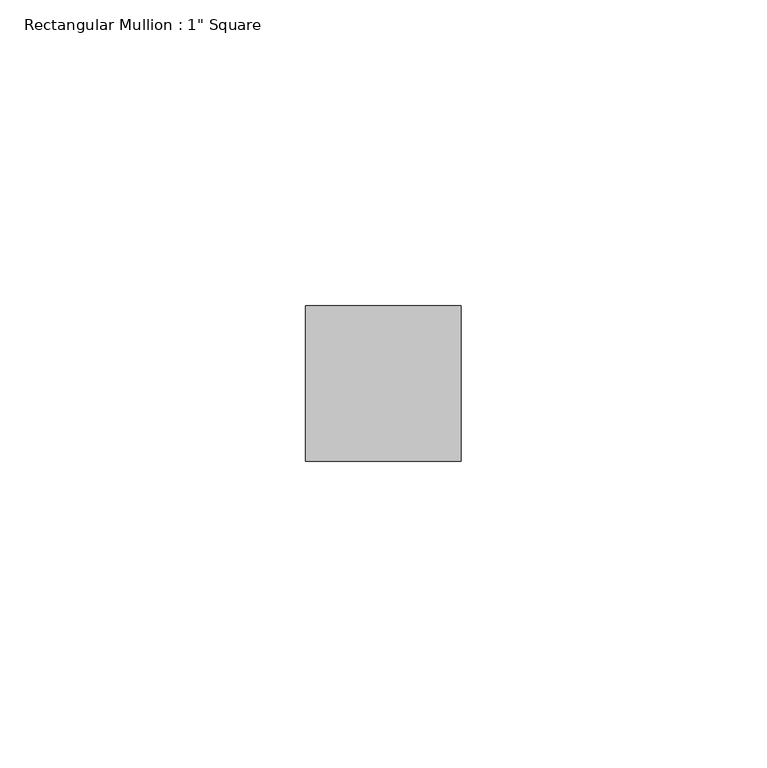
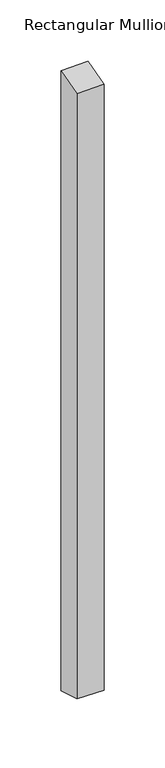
"""IFC4 building model written with IfcOpenShell, lengths in millimetres: member geometry."""

import ifcopenshell
import ifcopenshell.guid

model = None  # the IFC model being written
_history = None  # IfcOwnerHistory: only IFC2X3 demands one
_inside = {}  # id of a spatial element -> (the spatial element, [elements in it])
_under = {}  # id of a project, library or spatial element -> (it, [spatial elements below it])
_declared = {}  # id of a project -> (the project, [libraries it declares])
_typed = {}  # id of a type object -> (the type object, [elements of that type])
_made_of = {}  # id of a material, layer set ... -> (it, [elements and type objects made of it])


def new_model(schema):
    """Start an empty IFC model of exactly this schema.

    Asked for "IFC4X3", IfcOpenShell would pick the latest addendum, in which some entities
    have other attributes; the version numbers below select the first issue.
    IFC2X3 requires an IfcOwnerHistory on every rooted entity: one is made here for all.
    """
    global model, _history
    if schema == "IFC4X3":
        model = ifcopenshell.file(schema_version=(4, 3, 0, 0))
    else:
        model = ifcopenshell.file(schema=schema)
    _inside.clear()
    _under.clear()
    _declared.clear()
    _typed.clear()
    _made_of.clear()
    _history = None
    if model.schema == "IFC2X3":
        org = make("IfcOrganization", Name="unknown")
        user = make(
            "IfcPersonAndOrganization",
            ThePerson=make("IfcPerson", FamilyName="unknown"),
            TheOrganization=org,
        )
        app = make(
            "IfcApplication",
            ApplicationDeveloper=org,
            Version="unknown",
            ApplicationFullName="unknown",
            ApplicationIdentifier="unknown",
        )
        _history = make(
            "IfcOwnerHistory",
            OwningUser=user,
            OwningApplication=app,
            ChangeAction="ADDED",
            CreationDate=0,
        )
    return model


def make(cls, **values):
    """One entity of the class cls with the attributes given. An attribute that is None is left unset."""
    return model.create_entity(
        cls, **{name: value for name, value in values.items() if value is not None}
    )


def rooted(cls, **values):
    """An entity with a GlobalId (a new one), such as an element, a storey or a relation."""
    return make(cls, GlobalId=ifcopenshell.guid.new(), OwnerHistory=_history, **values)


def si_unit(unit_type, name, prefix=None):
    """IfcSIUnit, for example si_unit("LENGTHUNIT", "METRE", prefix="MILLI")."""
    return make("IfcSIUnit", UnitType=unit_type, Prefix=prefix, Name=name)


def assignment(units):
    """IfcUnitAssignment: the units of a project."""
    return None if units is None else make("IfcUnitAssignment", Units=units)


def point(xyz):
    """IfcCartesianPoint."""
    return None if xyz is None else make("IfcCartesianPoint", Coordinates=xyz)


def direction(xyz):
    """IfcDirection."""
    return None if xyz is None else make("IfcDirection", DirectionRatios=xyz)


def frame(location, z_axis=None, x_axis=None):
    """IfcAxis2Placement3D, a coordinate frame: its origin and axes. An axis left out is left unset."""
    return make(
        "IfcAxis2Placement3D",
        Location=point(location),
        Axis=direction(z_axis),
        RefDirection=direction(x_axis),
    )


def origin():
    """The frame at (0, 0, 0) with its axes left unset."""
    return frame((0.0, 0.0, 0.0))


def place(relative_to, where):
    """IfcLocalPlacement: puts the frame where relative to a parent placement (None: the world)."""
    return make(
        "IfcLocalPlacement", PlacementRelTo=relative_to, RelativePlacement=where
    )


def context(
    kind, dimensions, precision=None, world=None, true_north=None, identifier=None
):
    """IfcGeometricRepresentationContext, for example the 3D "Model" context."""
    return make(
        "IfcGeometricRepresentationContext",
        ContextIdentifier=identifier,
        ContextType=kind,
        CoordinateSpaceDimension=dimensions,
        Precision=precision,
        WorldCoordinateSystem=world,
        TrueNorth=true_north,
    )


def project(units=None, contexts=None):
    """IfcProject with its units and contexts."""
    return rooted(
        "IfcProject",
        Name="project",
        RepresentationContexts=contexts,
        UnitsInContext=assignment(units),
    )


def spatial(cls, under=None, at=None, **own):
    """A site, building, storey or space (cls), placed at a placement, below another one or the project."""
    s = rooted(cls, ObjectPlacement=at, **own)
    if under is not None:
        _under.setdefault(under.id(), (under, []))[1].append(s)
    return s


def faces_of(points, faces, orient=None, outer=None):
    """IfcFace entities. A face is a list of loops; a loop is a list of indices into points, from 0.

    orient and outer hold one flag for each loop. By default every Orientation is true, the
    first loop of a face is its IfcFaceOuterBound and the others are IfcFaceBound.
    """
    made = []
    for i, loops in enumerate(faces):
        bounds = []
        for j, loop in enumerate(loops):
            is_outer = j == 0 if outer is None else outer[i][j]
            bounds.append(
                make(
                    "IfcFaceOuterBound" if is_outer else "IfcFaceBound",
                    Bound=make("IfcPolyLoop", Polygon=[points[k] for k in loop]),
                    Orientation=True if orient is None else orient[i][j],
                )
            )
        made.append(make("IfcFace", Bounds=bounds))
    return made


def faceted_brep(points, faces, orient=None, outer=None, voids=None):
    """IfcFacetedBrep: a solid bounded by flat faces; with voids (closed shells), ...WithVoids."""
    shared = [point(p) for p in points]
    hull = make("IfcClosedShell", CfsFaces=faces_of(shared, faces, orient, outer))
    if voids is None:
        return make("IfcFacetedBrep", Outer=hull)
    return make(
        "IfcFacetedBrepWithVoids",
        Outer=hull,
        Voids=[
            make(cls, CfsFaces=faces_of(shared, fs, o, b)) for cls, fs, o, b in voids
        ],
    )


def shape(context_of_items, identifier, shape_type, items):
    """IfcShapeRepresentation: the items that make up one representation, for example the "Body"."""
    return make(
        "IfcShapeRepresentation",
        ContextOfItems=context_of_items,
        RepresentationIdentifier=identifier,
        RepresentationType=shape_type,
        Items=items,
    )


def source(mapping_origin, context_of_items, identifier, shape_type, items):
    """IfcRepresentationMap: a shape defined once, which mapped items show again and again."""
    return make(
        "IfcRepresentationMap",
        MappingOrigin=mapping_origin,
        MappedRepresentation=shape(context_of_items, identifier, shape_type, items),
    )


def transform(
    local_origin,
    x_axis=None,
    y_axis=None,
    z_axis=None,
    scale=None,
    scale2=None,
    scale3=None,
    uniform=True,
):
    """IfcCartesianTransformationOperator3D, or its non-uniform kind. x_axis, y_axis, z_axis: its Axis1, 2, 3."""
    if uniform:
        return make(
            "IfcCartesianTransformationOperator3D",
            Axis1=direction(x_axis),
            Axis2=direction(y_axis),
            LocalOrigin=point(local_origin),
            Scale=scale,
            Axis3=direction(z_axis),
        )
    return make(
        "IfcCartesianTransformationOperator3DnonUniform",
        Axis1=direction(x_axis),
        Axis2=direction(y_axis),
        LocalOrigin=point(local_origin),
        Scale=scale,
        Axis3=direction(z_axis),
        Scale2=scale2,
        Scale3=scale3,
    )


def mapped(mapping_source, mapping_target):
    """IfcMappedItem: shows the shape of a source again, moved by a transform."""
    return make(
        "IfcMappedItem", MappingSource=mapping_source, MappingTarget=mapping_target
    )


def made_of(thing, what):
    """Note that an element or type object is made of a material, layer set ...; save() writes the relation."""
    if what is not None:
        _made_of.setdefault(what.id(), (what, []))[1].append(thing)
    return thing


def element(
    cls,
    number,
    at=None,
    inside=None,
    cuts=None,
    type_object=None,
    material=None,
    context=None,
    identifier="Body",
    shape_type=None,
    held_by="IfcProductDefinitionShape",
    body=None,
    shapes=None,
    **own,
):
    """One element of the class cls, such as IfcWall. Its Tag is "e" and its number.

    at: its placement. inside: the storey or other place that contains it. cuts: it is an
    opening in that element (IfcRelVoidsElement). A single representation is given by context,
    identifier, shape_type and body (its items); several are given by shapes. held_by: the class
    of the entity that holds the representations. save() writes the other relations.
    """
    e = rooted(cls, Tag="e%d" % number, ObjectPlacement=at, **own)
    if body is not None:
        shapes = [shape(context, identifier, shape_type, body)]
    if shapes is not None:
        e.Representation = make(held_by, Representations=shapes)
    if inside is not None:
        _inside.setdefault(inside.id(), (inside, []))[1].append(e)
    if cuts is not None:
        rooted(
            "IfcRelVoidsElement", RelatingBuildingElement=cuts, RelatedOpeningElement=e
        )
    if type_object is not None:
        _typed.setdefault(type_object.id(), (type_object, []))[1].append(e)
    return made_of(e, material)


def aggregate(whole, parts):
    """IfcRelAggregates: a whole, such as a stair, and the parts it consists of."""
    return rooted("IfcRelAggregates", RelatingObject=whole, RelatedObjects=parts)


def save(model, path):
    """Write the relations noted so far, then the file.

    IfcRelAggregates (storeys below a building ...), IfcRelContainedInSpatialStructure (elements
    in a storey), IfcRelDefinesByType, IfcRelAssociatesMaterial and IfcRelDeclares: one each for
    every whole, place, type object, material and project.
    """
    for whole, parts in _under.values():
        aggregate(whole, parts)
    for where, things in _inside.values():
        rooted(
            "IfcRelContainedInSpatialStructure",
            RelatedElements=things,
            RelatingStructure=where,
        )
    for kind, things in _typed.values():
        rooted("IfcRelDefinesByType", RelatedObjects=things, RelatingType=kind)
    for what, things in _made_of.values():
        rooted("IfcRelAssociatesMaterial", RelatedObjects=things, RelatingMaterial=what)
    for by, libraries in _declared.values():
        rooted("IfcRelDeclares", RelatingContext=by, RelatedDefinitions=libraries)
    model.write(path)


def member_a09e3960(model_context):
    return source(origin(), model_context, "Body", "Brep", [
        faceted_brep([(-25.4, 12.7, 3.1099908), (0.0, 12.7, 3.6968147), (0.0, 12.7, -613.2968147), (-25.4, 12.7, -612.7099908), (-25.4, -12.7, -4.2836386), (-25.4, -12.7, -605.3163614), (0.0, -12.7, -3.6968147), (0.0, -12.7, -605.9031853)], [[[0, 1, 2, 3]], [[4, 0, 3, 5]], [[6, 4, 5, 7]], [[1, 6, 7, 2]], [[1, 0, 4, 6]], [[2, 7, 5, 3]]]),
    ])


if __name__ == "__main__":
    model = new_model("IFC4")
    model_context = context("Model", 3, world=origin())
    ifc_project = project(units=[si_unit("LENGTHUNIT", "METRE", prefix="MILLI")], contexts=[model_context])
    site = spatial("IfcSite", under=ifc_project)
    building = spatial("IfcBuilding", under=site)
    placement = place(None, origin())
    member_shape = member_a09e3960(model_context)
    element("IfcMember", 1, ObjectType="Rectangular Mullion : 1\" Square", at=placement, inside=building, context=model_context, shape_type="MappedRepresentation", body=[
        mapped(member_shape, transform((0.0, 0.0, 0.0), x_axis=(1.0, 0.0, 0.0), y_axis=(0.0, 1.0, 0.0), z_axis=(0.0, 0.0, 1.0))),
    ])
    save(model, "model.ifc")
